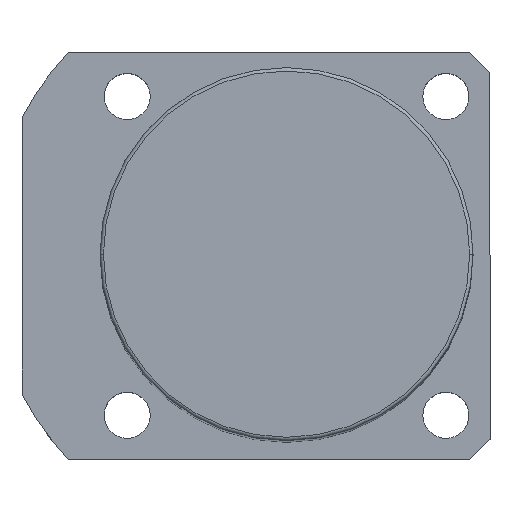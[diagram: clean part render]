
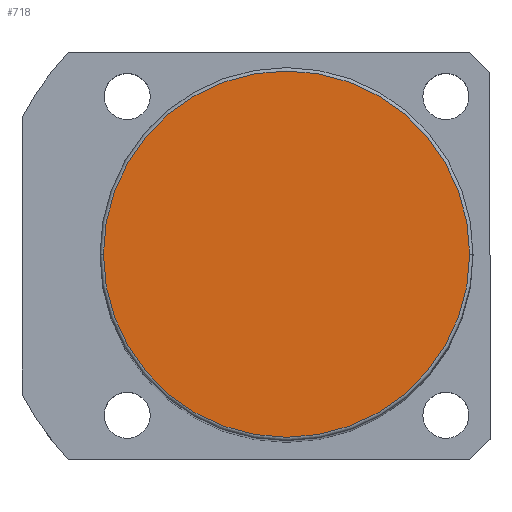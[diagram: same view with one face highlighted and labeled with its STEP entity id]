
A CAD part, top view. The second image highlights one B-rep face of the part: STEP entity #718.
In plain terms, the highlighted planar face has unit normal (0, 0, 1).
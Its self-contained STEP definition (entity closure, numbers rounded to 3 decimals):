
#85 = VERTEX_POINT ( 'NONE', #1266 ) ;
#124 = AXIS2_PLACEMENT_3D ( 'NONE', #1319, #1451, #1761 ) ;
#170 = ORIENTED_EDGE ( 'NONE', *, *, #1223, .T. ) ;
#228 = FACE_OUTER_BOUND ( 'NONE', #1772, .T. ) ;
#247 = DIRECTION ( 'NONE',  ( 1., 0., 0. ) ) ;
#257 = DIRECTION ( 'NONE',  ( 0., 0., 1. ) ) ;
#404 = PLANE ( 'NONE',  #124 ) ;
#488 = DIRECTION ( 'NONE',  ( 1., 0., 0. ) ) ;
#506 = EDGE_CURVE ( 'NONE', #1318, #85, #1530, .T. ) ;
#509 = DIRECTION ( 'NONE',  ( 0., 0., 1. ) ) ;
#651 = CARTESIAN_POINT ( 'NONE',  ( 0., 0., 156. ) ) ;
#718 = ADVANCED_FACE ( 'NONE', ( #228 ), #404, .T. ) ;
#1074 = CARTESIAN_POINT ( 'NONE',  ( -27., 0., 156. ) ) ;
#1187 = CARTESIAN_POINT ( 'NONE',  ( 0., 0., 156. ) ) ;
#1223 = EDGE_CURVE ( 'NONE', #85, #1318, #1524, .T. ) ;
#1266 = CARTESIAN_POINT ( 'NONE',  ( 27., 0., 156. ) ) ;
#1318 = VERTEX_POINT ( 'NONE', #1074 ) ;
#1319 = CARTESIAN_POINT ( 'NONE',  ( 0., 0., 156. ) ) ;
#1336 = AXIS2_PLACEMENT_3D ( 'NONE', #651, #509, #488 ) ;
#1375 = ORIENTED_EDGE ( 'NONE', *, *, #506, .T. ) ;
#1451 = DIRECTION ( 'NONE',  ( 0., 0., 1. ) ) ;
#1524 = CIRCLE ( 'NONE', #1683, 27. ) ;
#1530 = CIRCLE ( 'NONE', #1336, 27. ) ;
#1683 = AXIS2_PLACEMENT_3D ( 'NONE', #1187, #257, #247 ) ;
#1761 = DIRECTION ( 'NONE',  ( 1., 0., 0. ) ) ;
#1772 = EDGE_LOOP ( 'NONE', ( #170, #1375 ) ) ;
